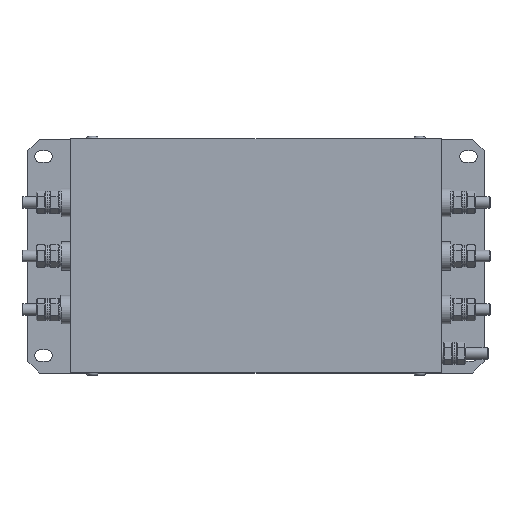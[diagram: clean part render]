
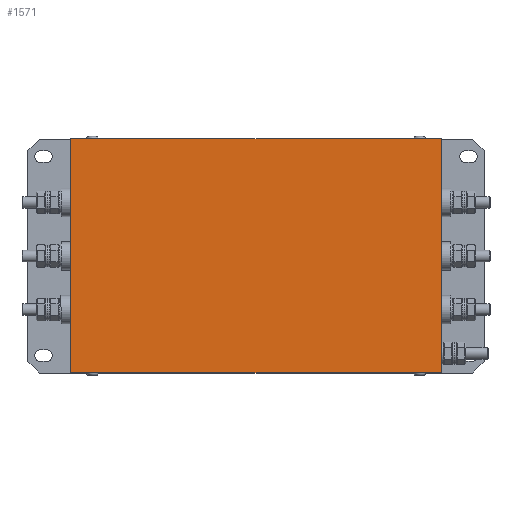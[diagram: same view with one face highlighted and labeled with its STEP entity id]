
A CAD part, top view. The second image highlights one B-rep face of the part: STEP entity #1571.
In plain terms, the highlighted planar face has unit normal (0, 0, 1).
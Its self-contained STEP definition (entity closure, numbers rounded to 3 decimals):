
#1571=ADVANCED_FACE('',(#2103),#2105,.T.);
#2103=FACE_BOUND('',#2104,.T.);
#2104=EDGE_LOOP('',(#2799,#2800,#2801,#2802));
#2105=PLANE('',#2106);
#2106=AXIS2_PLACEMENT_3D('',#2107,#2108,#2109);
#2107=CARTESIAN_POINT('',(0.,0.,50.));
#2108=DIRECTION('',(0.,0.,1.));
#2109=DIRECTION('',(-1.,0.,0.));
#2799=ORIENTED_EDGE('',*,*,#3125,.T.);
#2800=ORIENTED_EDGE('',*,*,#3101,.T.);
#2801=ORIENTED_EDGE('',*,*,#3123,.T.);
#2802=ORIENTED_EDGE('',*,*,#3126,.T.);
#3101=EDGE_CURVE('',#3272,#3270,#3273,.T.);
#3123=EDGE_CURVE('',#3270,#3313,#3315,.T.);
#3125=EDGE_CURVE('',#3317,#3272,#3318,.T.);
#3126=EDGE_CURVE('',#3313,#3317,#3319,.T.);
#3270=VERTEX_POINT('',#3565);
#3272=VERTEX_POINT('',#3569);
#3273=LINE('',#3570,#3571);
#3313=VERTEX_POINT('',#3659);
#3315=LINE('',#3663,#3664);
#3317=VERTEX_POINT('',#3669);
#3318=LINE('',#3670,#3671);
#3319=LINE('',#3673,#3674);
#3565=CARTESIAN_POINT('',(67.5,46.5,50.));
#3569=CARTESIAN_POINT('',(67.5,-73.5,50.));
#3570=CARTESIAN_POINT('',(67.5,-73.5,50.));
#3571=VECTOR('',#3572,1.);
#3572=DIRECTION('',(0.,1.,0.));
#3659=CARTESIAN_POINT('',(-122.5,46.5,50.));
#3663=CARTESIAN_POINT('',(67.5,46.5,50.));
#3664=VECTOR('',#3665,1.);
#3665=DIRECTION('',(-1.,0.,0.));
#3669=CARTESIAN_POINT('',(-122.5,-73.5,50.));
#3670=CARTESIAN_POINT('',(-122.5,-73.5,50.));
#3671=VECTOR('',#3672,1.);
#3672=DIRECTION('',(1.,0.,0.));
#3673=CARTESIAN_POINT('',(-122.5,46.5,50.));
#3674=VECTOR('',#3675,1.);
#3675=DIRECTION('',(0.,-1.,0.));
